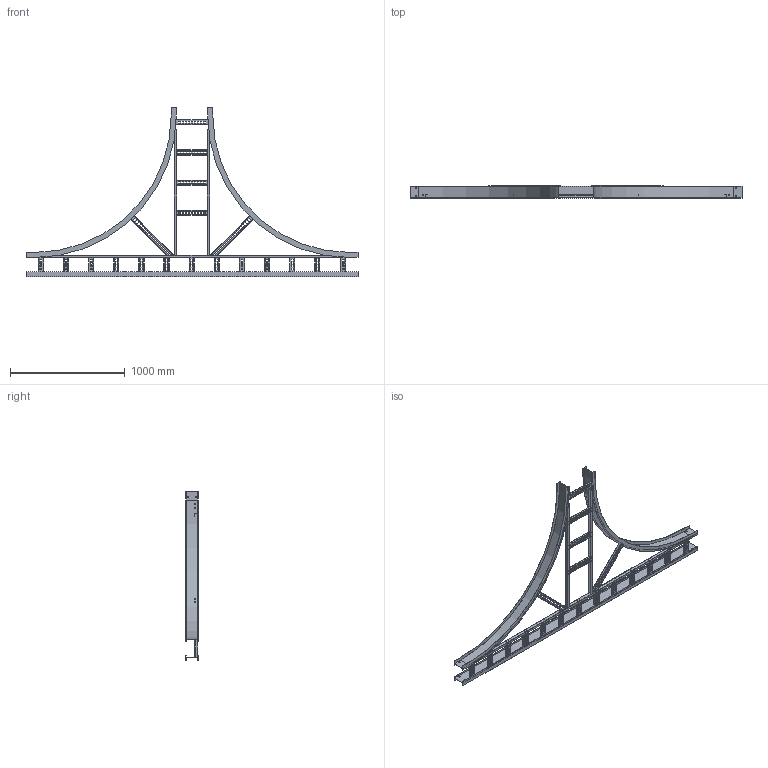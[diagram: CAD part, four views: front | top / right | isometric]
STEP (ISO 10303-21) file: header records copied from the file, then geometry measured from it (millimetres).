
FILE_DESCRIPTION((''),'2;1');
FILE_NAME('AHF40612LET48_ASM','2010-01-28T',('erouzier'),(''),'PRO/ENGINEER BY PARAMETRIC TECHNOLOGY CORPORATION, 2008510','PRO/ENGINEER BY PARAMETRIC TECHNOLOGY CORPORATION, 2008510','');
FILE_SCHEMA(('CONFIG_CONTROL_DESIGN'));
Length unit declared in the file: inch
Products named in the file (21): CDS001810-4-90-48-I; CDS013845-4-114; CDS000495_GEN_AF9; CDS002159L6-P_AF8; CDS002159L6-P_AF9; CDS002159L6-P_AF10; CDS002159L6-P_AF11; CDS002159L6-P; CDS002159L6-P_AF12; CDS002159L6-P_AF13; CDS002159L6-P_AF14; CDS002159L6-P_AF15; CDS000495_GEN_AF10; CDS000495_GEN_AF11; CDS002159L24-P_AF6; CDS002159L24-P_AF7; CDS002159L12-P_AF35; CDS002159L12-P_AF36; CDS002159L12-P_AF37; CDS002159L12-P_AF38; AHF40612LET48_ASM
Assembly tree (25 placements, depth 2):
  AHF40612LET48_ASM
    CDS001810-4-90-48-I  x2
    CDS013845-4-114
    CDS000495_GEN_AF9
    CDS002159L6-P_AF8
    CDS002159L6-P_AF9
    CDS002159L6-P_AF10
    CDS002159L6-P_AF11
    CDS002159L6-P  x5
    CDS002159L6-P_AF12
    CDS002159L6-P_AF13
    CDS002159L6-P_AF14
    CDS002159L6-P_AF15
    CDS000495_GEN_AF10
    CDS000495_GEN_AF11
    CDS002159L24-P_AF6
    CDS002159L24-P_AF7
    CDS002159L12-P_AF35
    CDS002159L12-P_AF36
    CDS002159L12-P_AF37
    CDS002159L12-P_AF38
Bounding box: 2899.41 x 106.43 x 1479.8 mm (x, y, z)
Volume: 3980999.1 mm3; surface area: 4314111.8 mm2
Topology: 25 solids, 25 shells, 1738 faces, 5064 edges, 3376 vertices
Faces by surface type: plane 1007, cylinder 731
Entity records: 49203 total; most frequent: CARTESIAN_POINT 8690, ORIENTED_EDGE 8448, DIRECTION 8402, EDGE_CURVE 4224, VECTOR 2990, LINE 2990, VERTEX_POINT 2816, AXIS2_PLACEMENT_3D 2706
